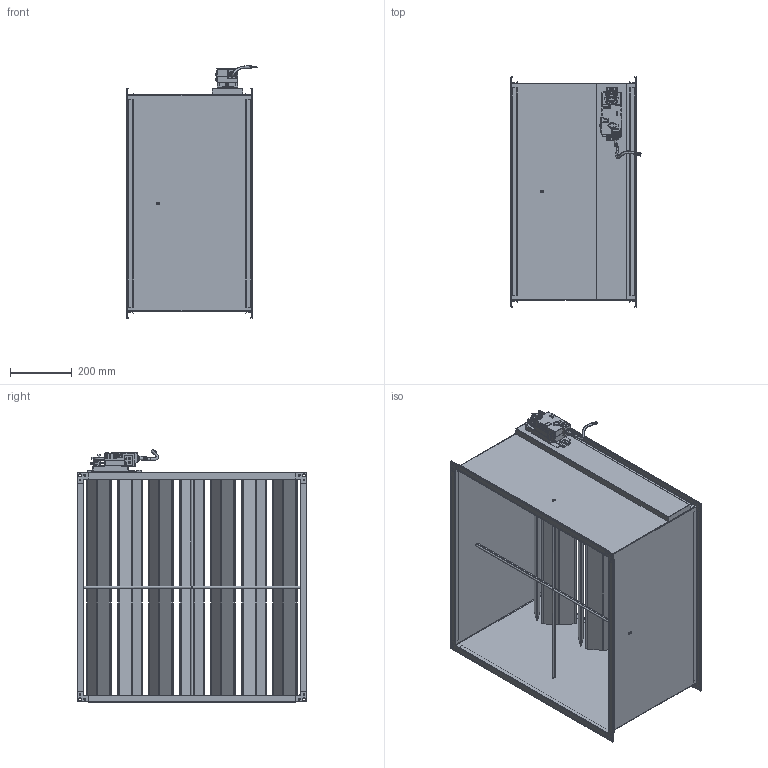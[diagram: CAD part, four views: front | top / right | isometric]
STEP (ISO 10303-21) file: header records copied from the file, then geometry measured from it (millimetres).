
FILE_DESCRIPTION (( 'STEP AP214' ), '1' );
FILE_NAME ('VAV-S700700.STEP', '2025-05-08T11:46:20', ( '' ), ( '' ), 'SwSTEP 2.0', 'SolidWorks 2025', '' );
FILE_SCHEMA (( 'AUTOMOTIVE_DESIGN' ));
Length unit declared in the file: millimetre
Products named in the file (1): VAV-S700700
Bounding box: 420.13 x 741 x 813.69 mm (x, y, z)
Surface area: 4531571.1 mm2 (no closed solid volume)
Topology: 0 solids, 48 shells, 2138 faces, 5592 edges, 3559 vertices
Faces by surface type: plane 1557, cylinder 528, bspline 24, sphere 18, cone 10, torus 1
Full cylindrical faces by diameter (mm): 1 x4, 6 x17, 8 x1, 9 x8, 11 x1, 20 x1, 21 x2
Entity records: 93101 total; most frequent: CARTESIAN_POINT 41595, ORIENTED_EDGE 10971, DIRECTION 7169, EDGE_CURVE 5509, VERTEX_POINT 3533, B_SPLINE_CURVE_WITH_KNOTS 3154, AXIS2_PLACEMENT_3D 2723, EDGE_LOOP 2347
